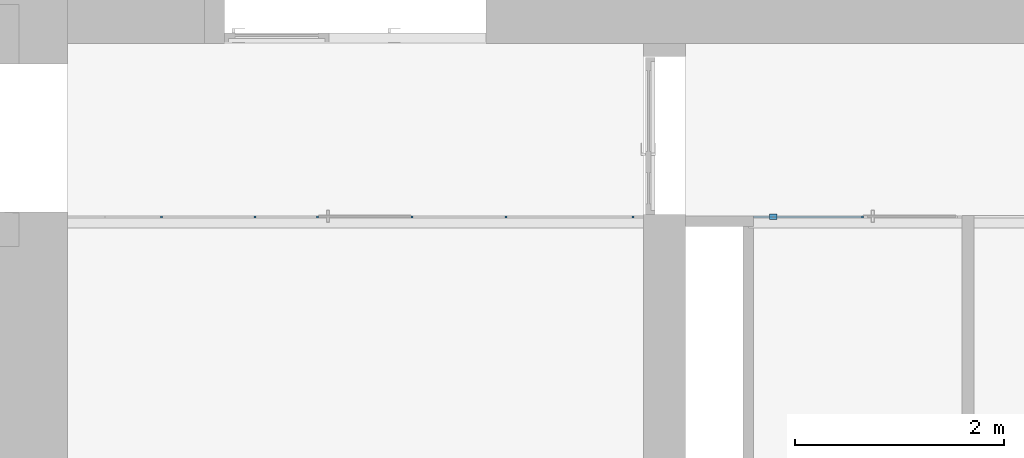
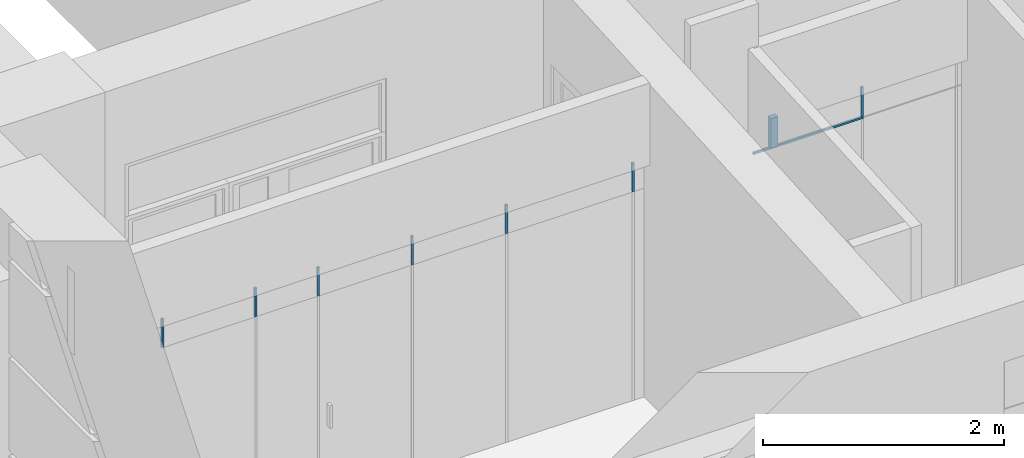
# One storey, part 7 of 46: 10 members, 2 elements without a shape of their own.
"""IFC2X3 building model written with IfcOpenShell, lengths in millimetres."""

from ifc_helpers import new_model, entity, si_unit, converted_unit, derived_unit, direction, frame, origin, origin_2d_with_axis, place, context, subcontext, project, spatial, rectangle, extrude, source, transform, mapped, material, type_object, type_shapes, element, aggregate, save


model = new_model("IFC2X3")

# Units and contexts
model_context = context("Model", 3, precision=0.01, world=origin(), true_north=direction((6.12303176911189e-17, 1.0)))
body_context = subcontext(model_context, "Body", "Model", "MODEL_VIEW")
ifc_project = project(units=[si_unit("LENGTHUNIT", "METRE", prefix="MILLI"), si_unit("AREAUNIT", "SQUARE_METRE"), si_unit("VOLUMEUNIT", "CUBIC_METRE"), converted_unit("PLANEANGLEUNIT", "DEGREE", entity("IfcRatioMeasure", 0.0174532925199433), si_unit("PLANEANGLEUNIT", "RADIAN"), dimensions=[0, 0, 0, 0, 0, 0, 0]), si_unit("MASSUNIT", "GRAM", prefix="KILO"), derived_unit("MASSDENSITYUNIT", [(si_unit("MASSUNIT", "GRAM", prefix="KILO"), 1), (si_unit("LENGTHUNIT", "METRE"), -3)]), si_unit("TIMEUNIT", "SECOND"), si_unit("FREQUENCYUNIT", "HERTZ"), si_unit("THERMODYNAMICTEMPERATUREUNIT", "DEGREE_CELSIUS"), derived_unit("THERMALTRANSMITTANCEUNIT", [(si_unit("MASSUNIT", "GRAM", prefix="KILO"), 1), (si_unit("THERMODYNAMICTEMPERATUREUNIT", "KELVIN"), -1), (si_unit("TIMEUNIT", "SECOND"), -3)]), derived_unit("VOLUMETRICFLOWRATEUNIT", [(si_unit("LENGTHUNIT", "METRE"), 3), (si_unit("TIMEUNIT", "SECOND"), -1)]), si_unit("ELECTRICCURRENTUNIT", "AMPERE"), si_unit("ELECTRICVOLTAGEUNIT", "VOLT"), si_unit("POWERUNIT", "WATT"), si_unit("FORCEUNIT", "NEWTON", prefix="KILO"), si_unit("ILLUMINANCEUNIT", "LUX"), si_unit("LUMINOUSFLUXUNIT", "LUMEN"), si_unit("LUMINOUSINTENSITYUNIT", "CANDELA"), derived_unit("USERDEFINED", [(si_unit("MASSUNIT", "GRAM", prefix="KILO"), -1), (si_unit("LENGTHUNIT", "METRE"), -2), (si_unit("TIMEUNIT", "SECOND"), 3), (si_unit("LUMINOUSFLUXUNIT", "LUMEN"), 1)]), derived_unit("LINEARVELOCITYUNIT", [(si_unit("LENGTHUNIT", "METRE"), 1), (si_unit("TIMEUNIT", "SECOND"), -1)]), si_unit("PRESSUREUNIT", "PASCAL"), derived_unit("USERDEFINED", [(si_unit("LENGTHUNIT", "METRE"), -2), (si_unit("MASSUNIT", "GRAM", prefix="KILO"), 1), (si_unit("TIMEUNIT", "SECOND"), -2)])], contexts=[model_context])

# Site, building, storey
site_placement = place(None, frame((-151.875543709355, 2715.0, 0.0)))
site = spatial("IfcSite", under=ifc_project, at=site_placement, Name="Surface", CompositionType="ELEMENT")
building_placement = place(site_placement, origin())
building = spatial("IfcBuilding", under=site, at=building_placement, CompositionType="ELEMENT")
storey_placement = place(building_placement, frame((0.0, 0.0, 10060.0)))
storey = spatial("IfcBuildingStorey", under=building, at=storey_placement, Name="4 korrus", CompositionType="ELEMENT", Elevation=10060.0000000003)

# Curtain wall, member
curtain_wall_type_1 = type_object("IfcCurtainWallType", Name="Curtain Wall:Klaassein KLS-24", PredefinedType="NOTDEFINED")
curtain_wall_1_placement = place(storey_placement, frame((0.0, 0.0, -10060.0)))
curtain_wall_1 = element("IfcCurtainWall", 1, at=curtain_wall_1_placement, inside=storey, type_object=curtain_wall_type_1, Name="Curtain Wall:Klaassein KLS-24", ObjectType="Curtain Wall:Klaassein KLS-24")
ifc_material_1 = material(Name="__Uks_hele tamm")
member_type_1 = type_object("IfcMemberType", Name="20 x 20mm", PredefinedType="MEMBER")
shared_shape_1 = source(origin(), body_context, "Body", "SweptSolid", [
    extrude(rectangle(XDim=20.0, YDim=20.0, at=origin_2d_with_axis()), frame((0.0, 0.0, -300.0), z_axis=(0.0, 0.0, 1.0), x_axis=(0.0, -1.0, 0.0)), (0.0, 0.0, 1.0), 299.999999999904),
])
type_shapes(member_type_1, [shared_shape_1])
member_1_placement = place(storey_placement, frame((8051.56472640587, 4355.0449339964, 2100.0), z_axis=(0.0, 0.0, -1.0), x_axis=(-1.0, 0.0, 0.0)))
member_1 = element("IfcMember", 2, at=member_1_placement, type_object=member_type_1, material=ifc_material_1, Name="Rectangular Mullion:20 x 20mm", ObjectType="20 x 20mm", context=body_context, shape_type="MappedRepresentation", body=[
    mapped(shared_shape_1, transform((0.0, 0.0, 0.0), scale=1.0)),
])

# Curtain wall, members
curtain_wall_type_2 = type_object("IfcCurtainWallType", Name="Curtain Wall:Klaassein KLS-07", PredefinedType="NOTDEFINED")
curtain_wall_2_placement = place(storey_placement, frame((0.0, 0.0, -10060.0)))
curtain_wall_2 = element("IfcCurtainWall", 3, at=curtain_wall_2_placement, inside=storey, type_object=curtain_wall_type_2, Name="Curtain Wall:Klaassein KLS-07", ObjectType="Curtain Wall:Klaassein KLS-07")
member_type_2 = type_object("IfcMemberType", Name="20 x 20mm", PredefinedType="MEMBER")
shared_shape_2 = source(origin(), body_context, "Body", "SweptSolid", [
    extrude(rectangle(XDim=20.0, YDim=20.0, at=origin_2d_with_axis()), frame((0.0, 0.0, -290.0), z_axis=(0.0, 0.0, 1.0), x_axis=(0.0, -1.0, 0.0)), (0.0, 0.0, 1.0), 290.0),
])
type_shapes(member_type_2, [shared_shape_2])
member_2_placement = place(storey_placement, frame((1359.8755458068, 4355.0449339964, 2110.0), z_axis=(0.0, 0.0, -1.0), x_axis=(1.0, 0.0, 0.0)))
member_2 = element("IfcMember", 4, at=member_2_placement, type_object=member_type_2, material=ifc_material_1, Name="Rectangular Mullion:20 x 20mm", ObjectType="20 x 20mm", context=body_context, shape_type="MappedRepresentation", body=[
    mapped(shared_shape_2, transform((0.0, 0.0, 0.0), scale=1.0)),
])
member_3_placement = place(storey_placement, frame((2249.87554580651, 4355.0449339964, 2110.0), z_axis=(0.0, 0.0, -1.0), x_axis=(1.0, 0.0, 0.0)))
member_3 = element("IfcMember", 5, at=member_3_placement, type_object=member_type_2, material=ifc_material_1, Name="Rectangular Mullion:20 x 20mm", ObjectType="20 x 20mm", context=body_context, shape_type="MappedRepresentation", body=[
    mapped(shared_shape_2, transform((0.0, 0.0, 0.0), scale=1.0)),
])
member_4_placement = place(storey_placement, frame((2849.87554580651, 4355.0449339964, 2110.0), z_axis=(0.0, 0.0, -1.0), x_axis=(1.0, 0.0, 0.0)))
member_4 = element("IfcMember", 6, at=member_4_placement, type_object=member_type_2, material=ifc_material_1, Name="Rectangular Mullion:20 x 20mm", ObjectType="20 x 20mm", context=body_context, shape_type="MappedRepresentation", body=[
    mapped(shared_shape_2, transform((0.0, 0.0, 0.0), scale=1.0)),
])
member_5_placement = place(storey_placement, frame((3749.87554580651, 4355.0449339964, 2110.0), z_axis=(0.0, 0.0, -1.0), x_axis=(1.0, 0.0, 0.0)))
member_5 = element("IfcMember", 7, at=member_5_placement, type_object=member_type_2, material=ifc_material_1, Name="Rectangular Mullion:20 x 20mm", ObjectType="20 x 20mm", context=body_context, shape_type="MappedRepresentation", body=[
    mapped(shared_shape_2, transform((0.0, 0.0, 0.0), scale=1.0)),
])
member_6_placement = place(storey_placement, frame((4649.87554580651, 4355.04493399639, 2110.0), z_axis=(0.0, 0.0, -1.0), x_axis=(1.0, 0.0, 0.0)))
member_6 = element("IfcMember", 8, at=member_6_placement, type_object=member_type_2, material=ifc_material_1, Name="Rectangular Mullion:20 x 20mm", ObjectType="20 x 20mm", context=body_context, shape_type="MappedRepresentation", body=[
    mapped(shared_shape_2, transform((0.0, 0.0, 0.0), scale=1.0)),
])
member_7_placement = place(storey_placement, frame((5859.8755458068, 4355.04493399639, 2110.0), z_axis=(0.0, 0.0, -1.0), x_axis=(1.0, 0.0, 0.0)))
member_7 = element("IfcMember", 9, at=member_7_placement, type_object=member_type_2, material=ifc_material_1, Name="Rectangular Mullion:20 x 20mm", ObjectType="20 x 20mm", context=body_context, shape_type="MappedRepresentation", body=[
    mapped(shared_shape_2, transform((0.0, 0.0, 0.0), scale=1.0)),
])
aggregate(curtain_wall_2, [member_2, member_3, member_4, member_5, member_6, member_7])

# Member
member_type_3 = type_object("IfcMemberType", Name="20 x 20mm", PredefinedType="MEMBER")
shared_shape_3 = source(origin(), body_context, "Body", "SweptSolid", [
    extrude(rectangle(XDim=20.0, YDim=20.0, at=origin_2d_with_axis()), frame((0.0, 0.0, -860.0), z_axis=(0.0, 0.0, 1.0), x_axis=(0.0, -1.0, 0.0)), (0.0, 0.0, 1.0), 860.000000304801),
])
type_shapes(member_type_3, [shared_shape_3])
member_8_placement = place(storey_placement, frame((7201.56472610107, 4355.04493399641, 2090.0), z_axis=(-1.0, 0.0, 0.0), x_axis=(0.0, 0.0, 1.0)))
member_8 = element("IfcMember", 10, at=member_8_placement, type_object=member_type_3, material=ifc_material_1, Name="Rectangular Mullion:20 x 20mm", ObjectType="20 x 20mm", context=body_context, shape_type="MappedRepresentation", body=[
    mapped(shared_shape_3, transform((0.0, 0.0, 0.0), scale=1.0)),
])

member_type_4 = type_object("IfcMemberType", Name="20 x 20mm", PredefinedType="MEMBER")
shared_shape_4 = source(origin(), body_context, "Body", "SweptSolid", [
    extrude(rectangle(XDim=20.0, YDim=20.0, at=origin_2d_with_axis()), frame((0.0, 0.0, -189.071196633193), z_axis=(0.0, 0.0, 1.0), x_axis=(0.0, -1.0, 0.0)), (0.0, 0.0, 1.0), 189.071196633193),
])
type_shapes(member_type_4, [shared_shape_4])
member_9_placement = place(storey_placement, frame((7012.49352946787, 4355.04493399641, 2090.0), z_axis=(-1.0, 0.0, 0.0), x_axis=(0.0, 0.0, 1.0)))
member_9 = element("IfcMember", 11, at=member_9_placement, type_object=member_type_4, material=ifc_material_1, Name="Rectangular Mullion:20 x 20mm", ObjectType="20 x 20mm", context=body_context, shape_type="MappedRepresentation", body=[
    mapped(shared_shape_4, transform((0.0, 0.0, 0.0), scale=1.0)),
])

ifc_material_2 = material(Name="Metal - Aluminium")
member_type_5 = type_object("IfcMemberType", Name="25 x 50mm", PredefinedType="MEMBER")
shared_shape_5 = source(origin(), body_context, "Body", "SweptSolid", [
    extrude(rectangle(XDim=50.0, YDim=70.0, at=origin_2d_with_axis()), frame((0.0, 0.0, -300.0), z_axis=(0.0, 0.0, 1.0), x_axis=(0.0, -1.0, 0.0)), (0.0, 0.0, 1.0), 299.999999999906),
])
type_shapes(member_type_5, [shared_shape_5])
member_10_placement = place(storey_placement, frame((7201.56472610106, 4355.04493399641, 2100.0), z_axis=(0.0, 0.0, -1.0), x_axis=(-1.0, 0.0, 0.0)))
member_10 = element("IfcMember", 12, at=member_10_placement, type_object=member_type_5, material=ifc_material_2, Name="Rectangular Mullion:25 x 50mm", ObjectType="25 x 50mm", context=body_context, shape_type="MappedRepresentation", body=[
    mapped(shared_shape_5, transform((0.0, 0.0, 0.0), scale=1.0)),
])

aggregate(curtain_wall_1, [member_8, member_1, member_9, member_10])

save(model, "model.ifc")
